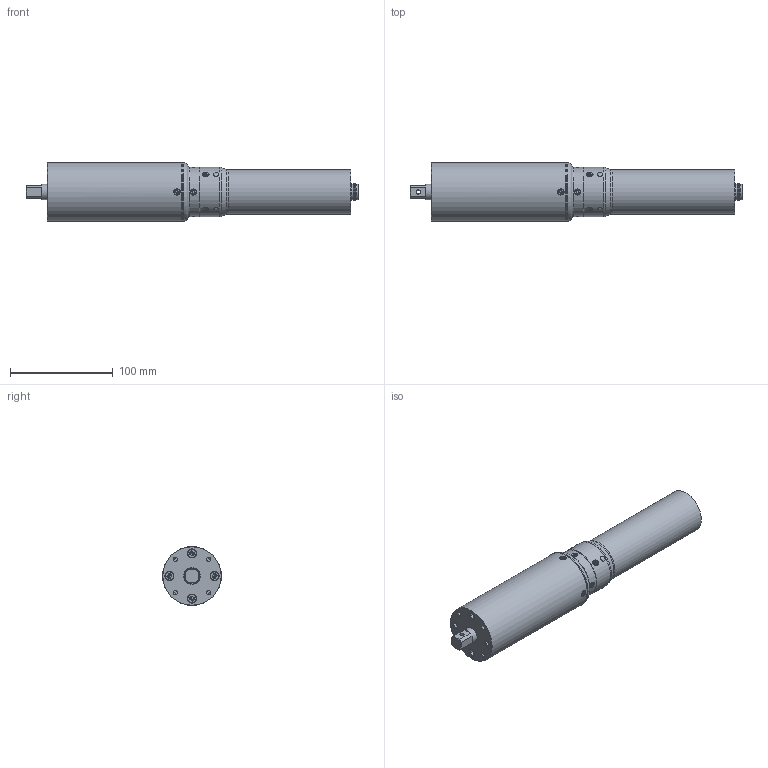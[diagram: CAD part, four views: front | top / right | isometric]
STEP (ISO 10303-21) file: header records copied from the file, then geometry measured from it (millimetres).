
FILE_DESCRIPTION (( 'STEP AP214' ), '1' );
FILE_NAME ('135150-KDS-PL50CA.STEP', '2023-03-03T10:28:46', ( '' ), ( '' ), 'SwSTEP 2.0', 'SolidWorks 2022', '' );
FILE_SCHEMA (( 'AUTOMOTIVE_DESIGN' ));
Length unit declared in the file: millimetre
Products named in the file (1): 135150-KDS-PL50CA
Bounding box: 322.6 x 57 x 57 mm (x, y, z)
Surface area: 56219.8 mm2 (no closed solid volume)
Topology: 0 solids, 26 shells, 301 faces, 874 edges, 592 vertices
Faces by surface type: cylinder 165, plane 83, cone 31, torus 18, bspline 4
Full cylindrical faces by diameter (mm): 1 x10, 4 x1, 4.2 x4, 5.004 x4, 5.1 x4, 5.5 x12, 9 x4, 11.8 x1, 12 x1, 14.85 x2, 15 x1, 15.5 x1, 16 x1, 43 x1, 48 x2, 57 x2
Entity records: 14021 total; most frequent: CARTESIAN_POINT 3006, DIRECTION 1759, ORIENTED_EDGE 1281, EDGE_CURVE 755, AXIS2_PLACEMENT_3D 748, VERTEX_POINT 571, EDGE_LOOP 461, CIRCLE 450
